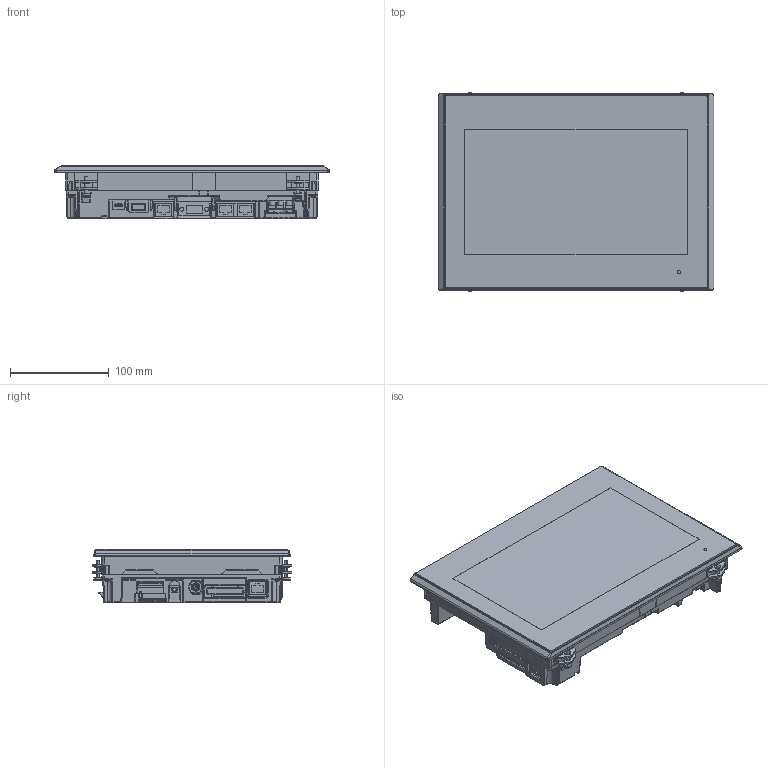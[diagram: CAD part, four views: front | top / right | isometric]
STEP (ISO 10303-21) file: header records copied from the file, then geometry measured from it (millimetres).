
FILE_DESCRIPTION((''),'2;1');
FILE_NAME('V9101IWRLD_3D-DATA','2014-11-10T',('oda'),('Hakko Electronics Co.,Ltd.'),'PRO/ENGINEER BY PARAMETRIC TECHNOLOGY CORPORATION, 2011330','PRO/ENGINEER BY PARAMETRIC TECHNOLOGY CORPORATION, 2011330','');
FILE_SCHEMA(('CONFIG_CONTROL_DESIGN'));
Products named in the file (1): V9101IWRLD_3D-DATA
Bounding box: 278.5 x 201.4 x 54.35 mm (x, y, z)
Volume: 2376684.1 mm3; surface area: 174840.3 mm2
Topology: 1 solids, 1 shells, 2154 faces, 5636 edges, 3577 vertices
Faces by surface type: plane 1334, cylinder 495, bspline 112, cone 93, sphere 65, torus 42, extrusion 13
Entity records: 81421 total; most frequent: CARTESIAN_POINT 30001, ORIENTED_EDGE 11264, DIRECTION 9637, EDGE_CURVE 5632, VECTOR 3983, LINE 3970, VERTEX_POINT 3576, AXIS2_PLACEMENT_3D 2827
